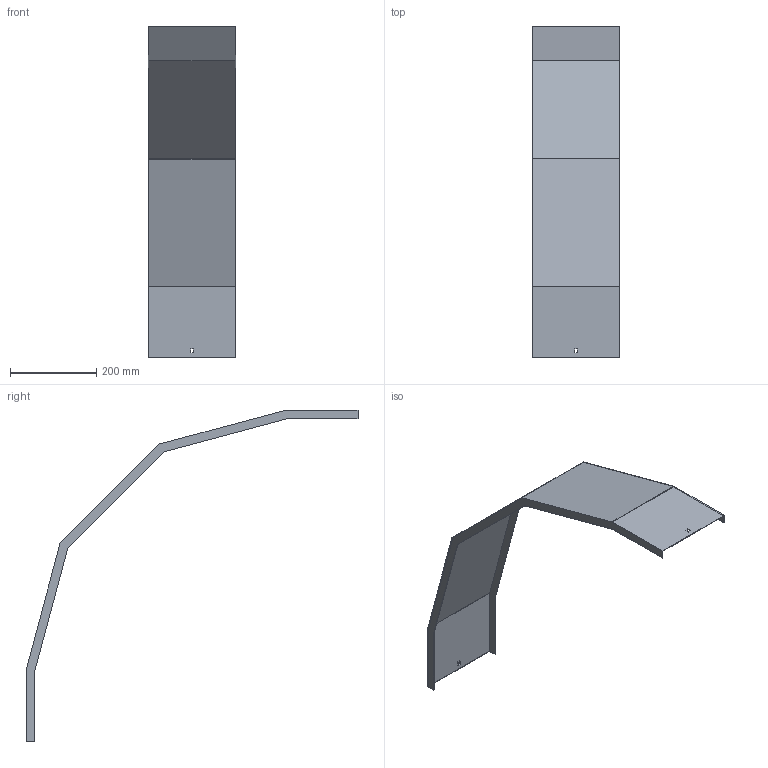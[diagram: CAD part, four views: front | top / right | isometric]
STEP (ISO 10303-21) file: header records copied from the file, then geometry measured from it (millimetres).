
FILE_DESCRIPTION (( 'STEP AP214' ), '1' );
FILE_NAME ('33N5D200.step', '2025-02-21T10:43:14', ( '' ), ( '' ), 'SwSTEP 2.0', 'SolidWorks 2023', '' );
FILE_SCHEMA (( 'AUTOMOTIVE_DESIGN' ));
Length unit declared in the file: millimetre
Products named in the file (1): 33N5D200
Bounding box: 203 x 769.82 x 769.82 mm (x, y, z)
Volume: 454974.3 mm3; surface area: 611157.1 mm2
Topology: 1 solids, 1 shells, 34 faces, 96 edges, 64 vertices
Faces by surface type: plane 34
Entity records: 1111 total; most frequent: CARTESIAN_POINT 195, ORIENTED_EDGE 192, DIRECTION 166, LINE 96, VECTOR 96, EDGE_CURVE 96, VERTEX_POINT 64, EDGE_LOOP 38
